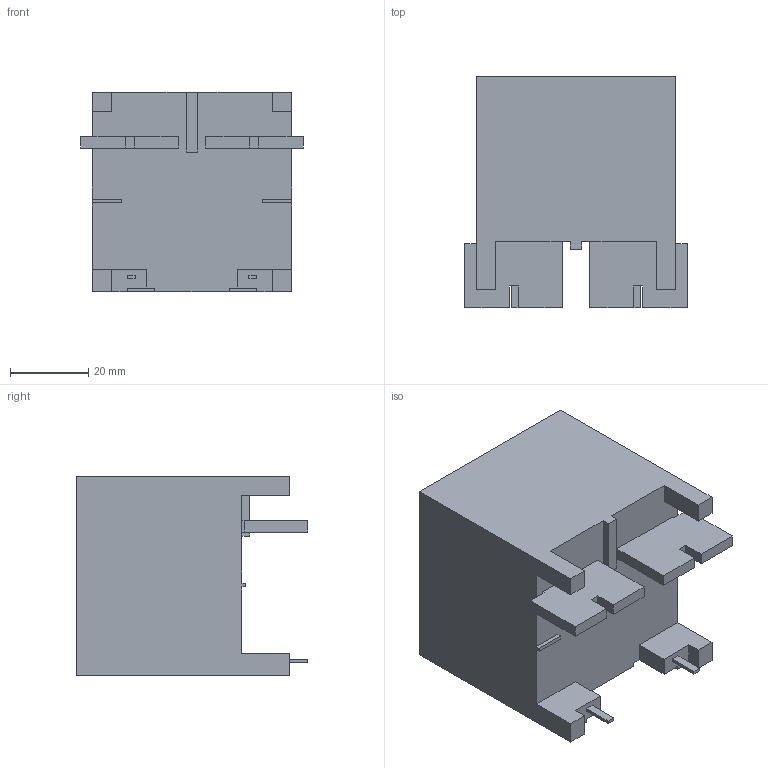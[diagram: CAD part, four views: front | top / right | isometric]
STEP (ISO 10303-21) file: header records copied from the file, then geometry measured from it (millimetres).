
FILE_DESCRIPTION (( 'STEP AP214' ), '1' );
FILE_NAME ('G9KA_1A_E.step', '2022-12-23T07:50:33', ( 'OSMC1.0 ' ), ( ' ' ), 'SwSTEP 2.0', 'SolidWorks 2002025', '' );
FILE_SCHEMA (( 'AUTOMOTIVE_DESIGN' ));
Length unit declared in the file: millimetre
Products named in the file (1): G9KA_1A_E
Bounding box: 56.7 x 59 x 51 mm (x, y, z)
Volume: 114431.1 mm3; surface area: 17286.8 mm2
Topology: 1 solids, 1 shells, 74 faces, 204 edges, 136 vertices
Faces by surface type: plane 74
Entity records: 2793 total; most frequent: CARTESIAN_POINT 415, ORIENTED_EDGE 408, DIRECTION 354, EDGE_CURVE 204, LINE 204, VECTOR 204, VERTEX_POINT 136, EDGE_LOOP 78
